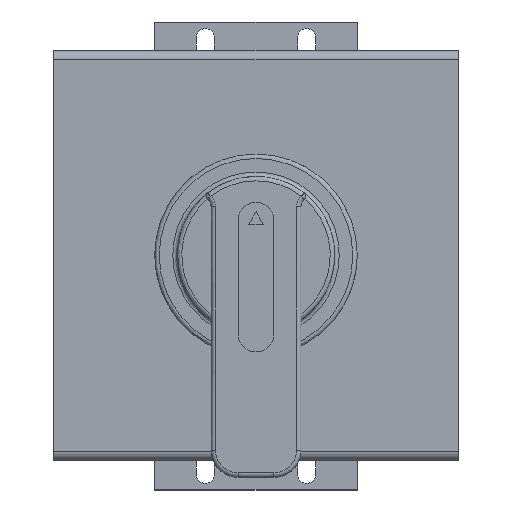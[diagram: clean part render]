
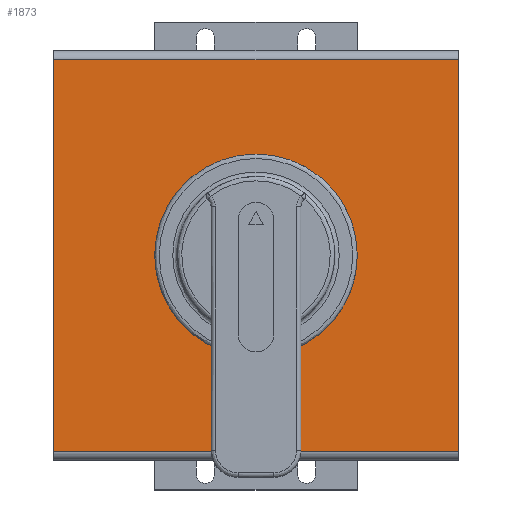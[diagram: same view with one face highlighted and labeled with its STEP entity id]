
A CAD part, top view. The second image highlights one B-rep face of the part: STEP entity #1873.
In plain terms, the highlighted planar face has unit normal (0, 0, 1).
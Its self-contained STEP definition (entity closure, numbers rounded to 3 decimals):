
#90=PLANE('',#2005);
#153=LINE('',#2694,#310);
#155=LINE('',#2700,#312);
#161=LINE('',#2722,#318);
#162=LINE('',#2723,#319);
#310=VECTOR('',#2182,10.);
#312=VECTOR('',#2188,10.);
#318=VECTOR('',#2206,10.);
#319=VECTOR('',#2207,10.);
#468=FACE_BOUND('',#610,.T.);
#492=FACE_OUTER_BOUND('',#609,.T.);
#609=EDGE_LOOP('',(#1304,#1305,#1306,#1307));
#610=EDGE_LOOP('',(#1308));
#743=CIRCLE('',#1994,5.);
#826=VERTEX_POINT('',#2685);
#829=VERTEX_POINT('',#2691);
#830=VERTEX_POINT('',#2693);
#832=VERTEX_POINT('',#2699);
#842=VERTEX_POINT('',#2721);
#1008=EDGE_CURVE('',#826,#826,#743,.T.);
#1011=EDGE_CURVE('',#829,#830,#153,.T.);
#1014=EDGE_CURVE('',#830,#832,#155,.T.);
#1025=EDGE_CURVE('',#829,#842,#161,.T.);
#1026=EDGE_CURVE('',#832,#842,#162,.T.);
#1304=ORIENTED_EDGE('',*,*,#1011,.F.);
#1305=ORIENTED_EDGE('',*,*,#1025,.T.);
#1306=ORIENTED_EDGE('',*,*,#1026,.F.);
#1307=ORIENTED_EDGE('',*,*,#1014,.F.);
#1308=ORIENTED_EDGE('',*,*,#1008,.T.);
#1873=ADVANCED_FACE('',(#492,#468),#90,.T.);
#1994=AXIS2_PLACEMENT_3D('',#2686,#2174,#2175);
#2005=AXIS2_PLACEMENT_3D('',#2720,#2204,#2205);
#2174=DIRECTION('center_axis',(0.,0.,-1.));
#2175=DIRECTION('ref_axis',(1.,0.,0.));
#2182=DIRECTION('',(1.,0.,0.));
#2188=DIRECTION('',(0.,-1.,0.));
#2204=DIRECTION('center_axis',(0.,0.,1.));
#2205=DIRECTION('ref_axis',(1.,0.,0.));
#2206=DIRECTION('',(0.,-1.,0.));
#2207=DIRECTION('',(-1.,0.,0.));
#2685=CARTESIAN_POINT('',(-5.,0.,47.));
#2686=CARTESIAN_POINT('Origin',(0.,0.,47.));
#2691=CARTESIAN_POINT('',(-45.,43.5,47.));
#2693=CARTESIAN_POINT('',(45.,43.5,47.));
#2694=CARTESIAN_POINT('',(22.5,43.5,47.));
#2699=CARTESIAN_POINT('',(45.,-43.5,47.));
#2700=CARTESIAN_POINT('',(45.,-45.5,47.));
#2720=CARTESIAN_POINT('Origin',(0.,44.5,47.));
#2721=CARTESIAN_POINT('',(-45.,-43.5,47.));
#2722=CARTESIAN_POINT('',(-45.,43.5,47.));
#2723=CARTESIAN_POINT('',(22.5,-43.5,47.));
